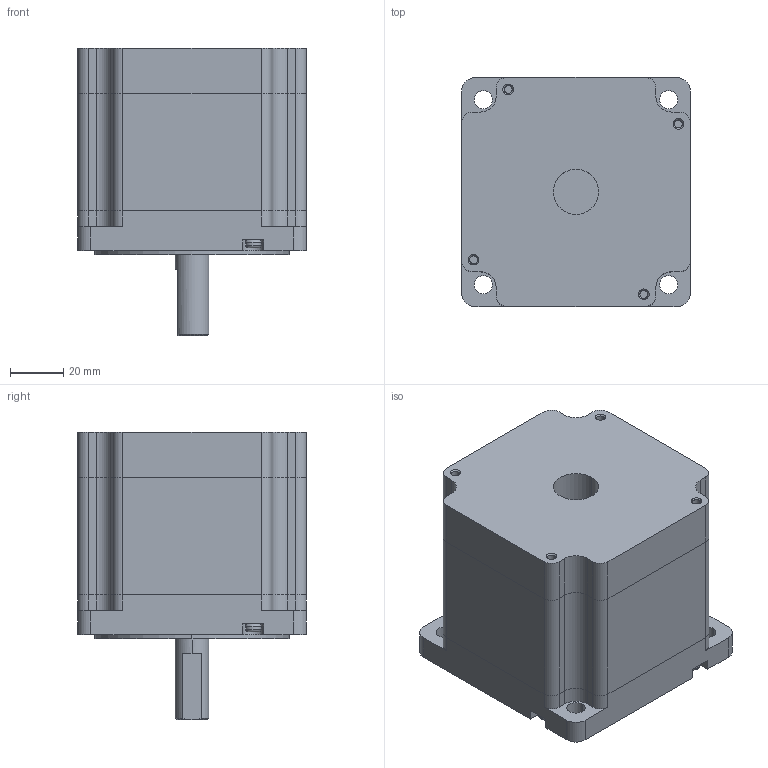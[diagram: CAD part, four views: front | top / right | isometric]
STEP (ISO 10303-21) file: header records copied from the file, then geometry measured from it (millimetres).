
FILE_DESCRIPTION (( 'STEP AP214' ), '1' );
FILE_NAME ('86J1880-460-FS.STEP', '2016-05-14T07:17:08', ( 'User' ), ( 'china' ), 'SwSTEP 2.0', 'SolidWorks 2010', '' );
FILE_SCHEMA (( 'AUTOMOTIVE_DESIGN' ));
Length unit declared in the file: millimetre
Products named in the file (5): 綴裔; 儂旯; 蹟佪芛; 86奻裔晦粣; 86J1880-460-FS
Assembly tree (7 placements, depth 2):
  86J1880-460-FS
    綴裔
    蹟佪芛  x4
    儂旯
    86奻裔晦粣
Bounding box: 86 x 86 x 108 mm (x, y, z)
Volume: 517261.4 mm3; surface area: 72030.6 mm2
Topology: 7 solids, 7 shells, 268 faces, 722 edges, 473 vertices
Faces by surface type: plane 121, cylinder 117, torus 16, cone 14
Entity records: 6344 total; most frequent: DIRECTION 1086, CARTESIAN_POINT 1065, ORIENTED_EDGE 1000, EDGE_CURVE 500, AXIS2_PLACEMENT_3D 398, VERTEX_POINT 329, LINE 290, VECTOR 290
